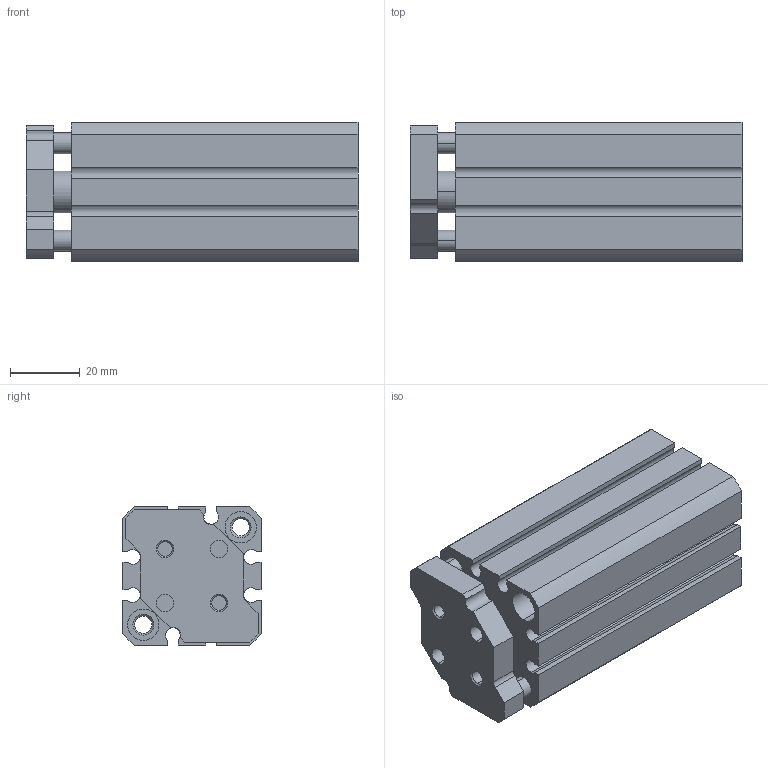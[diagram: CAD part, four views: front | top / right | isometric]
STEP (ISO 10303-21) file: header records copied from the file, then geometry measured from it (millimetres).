
FILE_DESCRIPTION (( 'STEP AP203' ), '1' );
FILE_NAME ('CCMG25-50.STEP', '2020-04-01T18:21:53', ( '' ), ( '' ), 'SwSTEP 2.0', 'SolidWorks 2019', '' );
FILE_SCHEMA (( 'CONFIG_CONTROL_DESIGN' ));
Length unit declared in the file: millimetre
Products named in the file (1): CCMG25-50
Bounding box: 95.5 x 40 x 40 mm (x, y, z)
Volume: 103392.4 mm3; surface area: 43443.5 mm2
Topology: 2 solids, 2 shells, 161 faces, 399 edges, 256 vertices
Faces by surface type: cylinder 77, plane 60, cone 24
Entity records: 4886 total; most frequent: DIRECTION 893, CARTESIAN_POINT 813, ORIENTED_EDGE 790, EDGE_CURVE 395, AXIS2_PLACEMENT_3D 336, VERTEX_POINT 256, VECTOR 221, LINE 221
